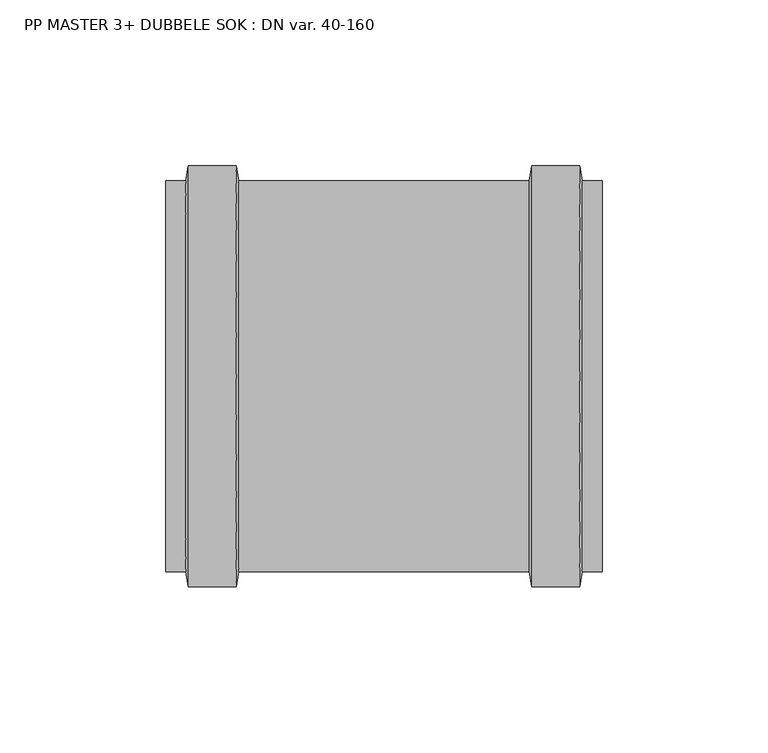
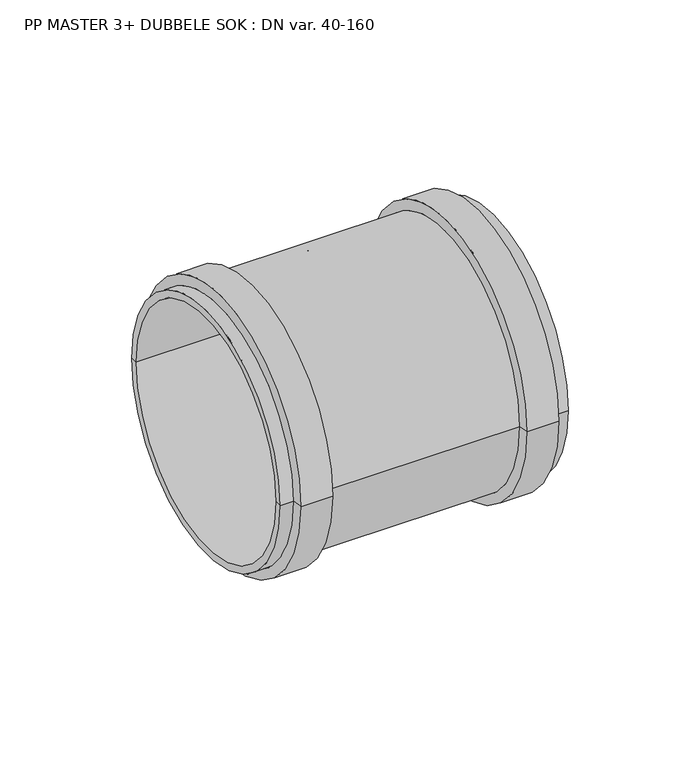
"""IFC4 building model written with IfcOpenShell, lengths in millimetres: pipe fitting geometry, PP MASTER 3+ DUBBELE SOK : DN var. 40-160."""

from ifc_helpers import new_model, si_unit, frame, origin, place, context, project, spatial, polyline, circle_curve, source, transform, mapped, element, save
from ifc_brep_helpers import plane_surface, cylinder_surface, revolved_surface, advanced_brep


def pp_master_3_dubbele_sok_dn_var_40_160_53966bc2(model_context):
    return source(origin(), model_context, "Body", "AdvancedBrep", [
        advanced_brep(
        [(0.975, -55.65, 0.0), (0.975, 55.65, 0.0), (0.975, 0.0, 0.0), (65.95, -55.65, 0.0), (65.95, 55.65, 0.0), (65.95, -59.05, 0.0), (65.95, 59.05, 0.0), (59.85, -59.05, 0.0), (59.85, 59.05, 0.0), (59.0551066, -63.6, 0.0), (59.0551066, 63.6, 0.0), (44.6522878, -63.6, 0.0), (44.6522878, 63.6, 0.0), (43.85, -59.05, 0.0), (43.85, 59.05, 0.0), (-43.85, -59.05, 0.0), (-43.85, 59.05, 0.0), (-44.6522878, -63.6, 0.0), (-44.6522878, 63.6, 0.0), (-59.0551066, -63.6, 0.0), (-59.0551066, 63.6, 0.0), (-59.85, -59.05, 0.0), (-59.85, 59.05, 0.0), (-65.95, -59.05, 0.0), (-65.95, 59.05, 0.0), (-65.95, -55.65, 0.0), (-65.95, 55.65, 0.0), (-0.975, -55.65, 0.0), (-0.975, 55.65, 0.0), (-0.975, 0.0, 0.0)],
        [
            (0, 1, circle_curve(frame((0.975, 0.0, 0.0), z_axis=(1.0, 0.0, 0.0), x_axis=(0.0, 1.0, 0.0)), 55.65)),
            (1, 2),
            (2, 0),
            (1, 0, circle_curve(frame((0.975, 0.0, 0.0), z_axis=(1.0, 0.0, 0.0), x_axis=(0.0, 1.0, 0.0)), 55.65)),
            (3, 4, circle_curve(frame((65.95, 0.0, 0.0), z_axis=(1.0, 0.0, 0.0), x_axis=(0.0, 1.0, 0.0)), 55.65)),
            (4, 1),
            (0, 3),
            (4, 3, circle_curve(frame((65.95, 0.0, 0.0), z_axis=(1.0, 0.0, 0.0), x_axis=(0.0, 1.0, 0.0)), 55.65)),
            (5, 6, circle_curve(frame((65.95, 0.0, 0.0), z_axis=(1.0, 0.0, 0.0), x_axis=(0.0, 1.0, 0.0)), 59.05)),
            (6, 4),
            (3, 5),
            (6, 5, circle_curve(frame((65.95, 0.0, 0.0), z_axis=(1.0, 0.0, 0.0), x_axis=(0.0, 1.0, 0.0)), 59.05)),
            (7, 8, circle_curve(frame((59.85, 0.0, 0.0), z_axis=(1.0, 0.0, 0.0), x_axis=(0.0, 1.0, 0.0)), 59.05)),
            (8, 6),
            (5, 7),
            (8, 7, circle_curve(frame((59.85, 0.0, 0.0), z_axis=(1.0, 0.0, 0.0), x_axis=(0.0, 1.0, 0.0)), 59.05)),
            (9, 10, circle_curve(frame((59.0551066, 0.0, 0.0), z_axis=(1.0, 0.0, 0.0), x_axis=(0.0, 1.0, 0.0)), 63.6)),
            (10, 8),
            (7, 9),
            (10, 9, circle_curve(frame((59.0551066, 0.0, 0.0), z_axis=(1.0, 0.0, 0.0), x_axis=(0.0, 1.0, 0.0)), 63.6)),
            (11, 12, circle_curve(frame((44.6522878, 0.0, 0.0), z_axis=(1.0, 0.0, 0.0), x_axis=(0.0, 1.0, 0.0)), 63.6)),
            (12, 10),
            (9, 11),
            (12, 11, circle_curve(frame((44.6522878, 0.0, 0.0), z_axis=(1.0, 0.0, 0.0), x_axis=(0.0, 1.0, 0.0)), 63.6)),
            (13, 14, circle_curve(frame((43.85, 0.0, 0.0), z_axis=(1.0, 0.0, 0.0), x_axis=(0.0, 1.0, 0.0)), 59.05)),
            (14, 12),
            (11, 13),
            (14, 13, circle_curve(frame((43.85, 0.0, 0.0), z_axis=(1.0, 0.0, 0.0), x_axis=(0.0, 1.0, 0.0)), 59.05)),
            (15, 16, circle_curve(frame((-43.85, 0.0, 0.0), z_axis=(1.0, 0.0, 0.0), x_axis=(0.0, 1.0, 0.0)), 59.05)),
            (16, 14),
            (13, 15),
            (16, 15, circle_curve(frame((-43.85, 0.0, 0.0), z_axis=(1.0, 0.0, 0.0), x_axis=(0.0, 1.0, 0.0)), 59.05)),
            (17, 18, circle_curve(frame((-44.6522878, 0.0, 0.0), z_axis=(1.0, 0.0, 0.0), x_axis=(0.0, 1.0, 0.0)), 63.6)),
            (18, 16),
            (15, 17),
            (18, 17, circle_curve(frame((-44.6522878, 0.0, 0.0), z_axis=(1.0, 0.0, 0.0), x_axis=(0.0, 1.0, 0.0)), 63.6)),
            (19, 20, circle_curve(frame((-59.0551066, 0.0, 0.0), z_axis=(1.0, 0.0, 0.0), x_axis=(0.0, 1.0, 0.0)), 63.6)),
            (20, 18),
            (17, 19),
            (20, 19, circle_curve(frame((-59.0551066, 0.0, 0.0), z_axis=(1.0, 0.0, 0.0), x_axis=(0.0, 1.0, 0.0)), 63.6)),
            (21, 22, circle_curve(frame((-59.85, 0.0, 0.0), z_axis=(1.0, 0.0, 0.0), x_axis=(0.0, 1.0, 0.0)), 59.05)),
            (22, 20),
            (19, 21),
            (22, 21, circle_curve(frame((-59.85, 0.0, 0.0), z_axis=(1.0, 0.0, 0.0), x_axis=(0.0, 1.0, 0.0)), 59.05)),
            (23, 24, circle_curve(frame((-65.95, 0.0, 0.0), z_axis=(1.0, 0.0, 0.0), x_axis=(0.0, 1.0, 0.0)), 59.05)),
            (24, 22),
            (21, 23),
            (24, 23, circle_curve(frame((-65.95, 0.0, 0.0), z_axis=(1.0, 0.0, 0.0), x_axis=(0.0, 1.0, 0.0)), 59.05)),
            (25, 26, circle_curve(frame((-65.95, 0.0, 0.0), z_axis=(1.0, 0.0, 0.0), x_axis=(0.0, 1.0, 0.0)), 55.65)),
            (26, 24),
            (23, 25),
            (26, 25, circle_curve(frame((-65.95, 0.0, 0.0), z_axis=(1.0, 0.0, 0.0), x_axis=(0.0, 1.0, 0.0)), 55.65)),
            (27, 28, circle_curve(frame((-0.975, 0.0, 0.0), z_axis=(1.0, 0.0, 0.0), x_axis=(0.0, 1.0, 0.0)), 55.65)),
            (28, 26),
            (25, 27),
            (28, 27, circle_curve(frame((-0.975, 0.0, 0.0), z_axis=(1.0, 0.0, 0.0), x_axis=(0.0, 1.0, 0.0)), 55.65)),
            (29, 28),
            (27, 29),
        ],
        [
            plane_surface(frame((0.975, 0.0, 0.0), z_axis=(1.0, 0.0, 0.0), x_axis=(0.0, 1.0, 0.0))),
            revolved_surface(polyline([(0.9749999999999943, 55.65, 0.0), (65.95, 55.65, 0.0)]), (-65.95, 0.0, 0.0), (-1.0, 0.0, 0.0)),
            plane_surface(frame((65.95, 0.0, 0.0), z_axis=(1.0, 0.0, 0.0), x_axis=(0.0, 1.0, 0.0))),
            cylinder_surface(frame((-65.95, 0.0, 0.0), z_axis=(-1.0, 0.0, 0.0), x_axis=(0.0, 1.0, 0.0)), 59.05),
            revolved_surface(polyline([(59.85, 59.05, 0.0), (59.0551066, 63.6, 0.0)]), (-65.95, 0.0, 0.0), (-1.0, 0.0, 0.0)),
            cylinder_surface(frame((-65.95, 0.0, 0.0), z_axis=(-1.0, 0.0, 0.0), x_axis=(0.0, 1.0, 0.0)), 63.6),
            revolved_surface(polyline([(44.6522878, 63.6, 0.0), (43.85, 59.05, 0.0)]), (-65.95, 0.0, 0.0), (-1.0, 0.0, 0.0)),
            revolved_surface(polyline([(-43.85, 59.05, 0.0), (-44.6522878, 63.6, 0.0)]), (-65.95, 0.0, 0.0), (-1.0, 0.0, 0.0)),
            revolved_surface(polyline([(-59.0551066, 63.6, 0.0), (-59.85, 59.05, 0.0)]), (-65.95, 0.0, 0.0), (-1.0, 0.0, 0.0)),
            plane_surface(frame((-65.95, 0.0, 0.0), z_axis=(-1.0, 0.0, 0.0), x_axis=(0.0, 1.0, 0.0))),
            revolved_surface(polyline([(-65.95, 55.65, 0.0), (-0.9749999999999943, 55.65, 0.0)]), (-65.95, 0.0, 0.0), (-1.0, 0.0, 0.0)),
            plane_surface(frame((-0.975, 0.0, 0.0), z_axis=(-1.0, 0.0, 0.0), x_axis=(0.0, 1.0, 0.0))),
        ],
        [
            (0, [[1, 2, 3]]),
            (0, [[4, -3, -2]]),
            (1, [[5, 6, -1, 7]]),
            (1, [[8, -7, -4, -6]]),
            (2, [[9, 10, -5, 11]]),
            (2, [[12, -11, -8, -10]]),
            (3, [[13, 14, -9, 15]]),
            (3, [[16, -15, -12, -14]]),
            (4, [[17, 18, -13, 19]]),
            (4, [[20, -19, -16, -18]]),
            (5, [[21, 22, -17, 23]]),
            (5, [[24, -23, -20, -22]]),
            (6, [[25, 26, -21, 27]]),
            (6, [[28, -27, -24, -26]]),
            (3, [[29, 30, -25, 31]]),
            (3, [[32, -31, -28, -30]]),
            (7, [[33, 34, -29, 35]]),
            (7, [[36, -35, -32, -34]]),
            (5, [[37, 38, -33, 39]]),
            (5, [[40, -39, -36, -38]]),
            (8, [[41, 42, -37, 43]]),
            (8, [[44, -43, -40, -42]]),
            (3, [[45, 46, -41, 47]]),
            (3, [[48, -47, -44, -46]]),
            (9, [[49, 50, -45, 51]]),
            (9, [[52, -51, -48, -50]]),
            (10, [[53, 54, -49, 55]]),
            (10, [[56, -55, -52, -54]]),
            (11, [[57, -53, 58]]),
            (11, [[-58, -56, -57]]),
        ],
    ),
    ])


if __name__ == "__main__":
    model = new_model("IFC4")
    model_context = context("Model", 3, world=origin())
    ifc_project = project(units=[si_unit("LENGTHUNIT", "METRE", prefix="MILLI")], contexts=[model_context])
    site = spatial("IfcSite", under=ifc_project)
    building = spatial("IfcBuilding", under=site)
    placement = place(None, origin())
    pp_master_3_dubbele_sok_dn_var_40_160_shape = pp_master_3_dubbele_sok_dn_var_40_160_53966bc2(model_context)
    element("IfcPipeFitting", 1, ObjectType="PP MASTER 3+ DUBBELE SOK : DN var. 40-160", at=placement, inside=building, context=model_context, shape_type="MappedRepresentation", body=[
        mapped(pp_master_3_dubbele_sok_dn_var_40_160_shape, transform((0.0, 0.0, 0.0), x_axis=(1.0, 0.0, 0.0), y_axis=(0.0, 1.0, 0.0), z_axis=(0.0, 0.0, 1.0))),
    ])
    save(model, "model.ifc")
